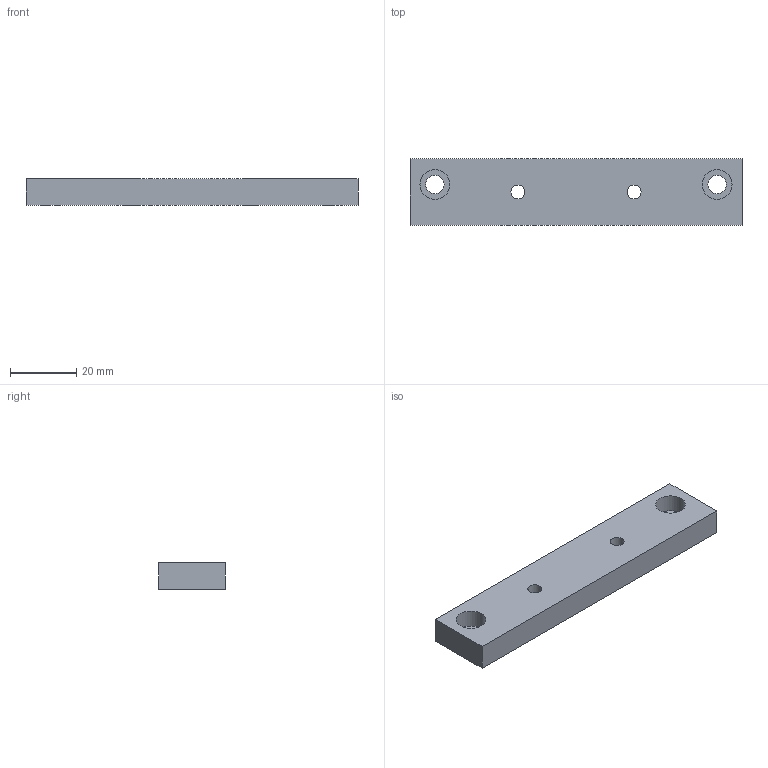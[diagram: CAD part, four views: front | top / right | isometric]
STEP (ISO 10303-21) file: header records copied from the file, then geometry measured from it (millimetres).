
FILE_DESCRIPTION (( 'STEP AP214' ), '1' );
FILE_NAME ('AN40130.step', '2024-12-03T16:14:01', ( '' ), ( '' ), 'SwSTEP 2.0', 'SolidWorks 2023', '' );
FILE_SCHEMA (( 'AUTOMOTIVE_DESIGN' ));
Length unit declared in the file: millimetre
Products named in the file (1): AN40130
Bounding box: 100 x 20 x 8 mm (x, y, z)
Volume: 14959.7 mm3; surface area: 6378.1 mm2
Topology: 1 solids, 1 shells, 14 faces, 30 edges, 20 vertices
Faces by surface type: plane 8, cylinder 6
Full cylindrical faces by diameter (mm): 4.2 x2, 5.5 x2, 9 x2
Entity records: 395 total; most frequent: DIRECTION 66, CARTESIAN_POINT 59, ORIENTED_EDGE 48, EDGE_LOOP 30, AXIS2_PLACEMENT_3D 27, EDGE_CURVE 24, FACE_OUTER_BOUND 20, VERTEX_POINT 20
